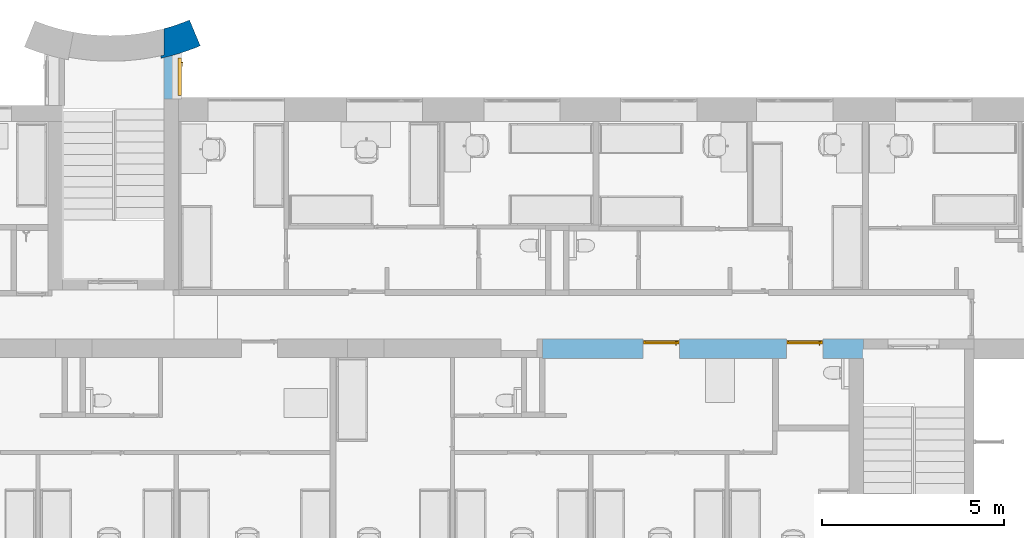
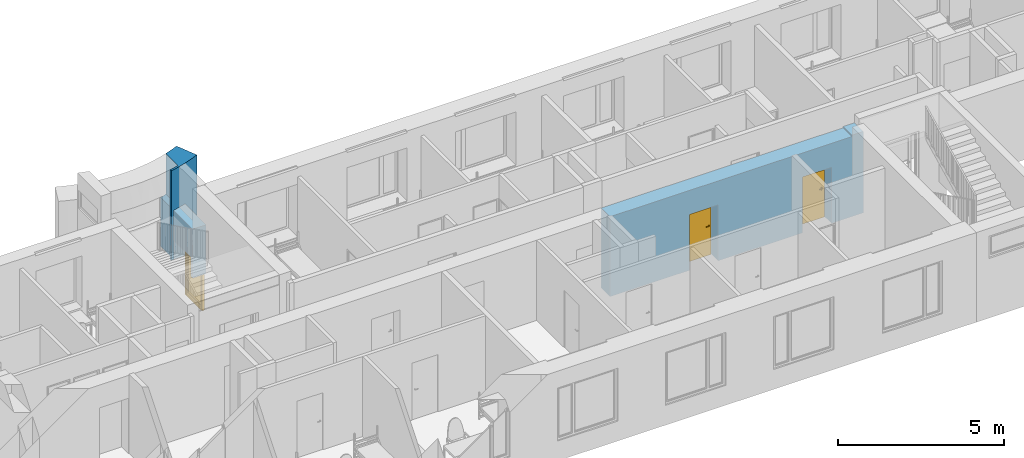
# One storey, part 19 of 46: 3 doors, 1 wall, 3 openings, plus 2 elements that do not belong to this part.
"""IFC2X3 building model written with IfcOpenShell, lengths in millimetres."""

from ifc_helpers import new_model, entity, si_unit, converted_unit, derived_unit, direction, frame, frame_2d, origin, place, context, subcontext, project, spatial, polyline, rectangle, outline, extrude, clip, bounded_halfspace, faceted_brep, source, transform, mapped, material, material_list, layer, layer_set, layer_usage, type_object, type_shapes, element, fill, save


model = new_model("IFC2X3")

# Units and contexts
model_context = context("Model", 3, precision=0.01, world=origin(), true_north=direction((6.12303176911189e-17, 1.0)))
body_context = subcontext(model_context, "Body", "Model", "MODEL_VIEW")
ifc_project = project(units=[si_unit("LENGTHUNIT", "METRE", prefix="MILLI"), si_unit("AREAUNIT", "SQUARE_METRE"), si_unit("VOLUMEUNIT", "CUBIC_METRE"), converted_unit("PLANEANGLEUNIT", "DEGREE", entity("IfcRatioMeasure", 0.0174532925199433), si_unit("PLANEANGLEUNIT", "RADIAN"), dimensions=[0, 0, 0, 0, 0, 0, 0]), si_unit("MASSUNIT", "GRAM", prefix="KILO"), derived_unit("MASSDENSITYUNIT", [(si_unit("MASSUNIT", "GRAM", prefix="KILO"), 1), (si_unit("LENGTHUNIT", "METRE"), -3)]), si_unit("TIMEUNIT", "SECOND"), si_unit("FREQUENCYUNIT", "HERTZ"), si_unit("THERMODYNAMICTEMPERATUREUNIT", "DEGREE_CELSIUS"), derived_unit("THERMALTRANSMITTANCEUNIT", [(si_unit("MASSUNIT", "GRAM", prefix="KILO"), 1), (si_unit("THERMODYNAMICTEMPERATUREUNIT", "KELVIN"), -1), (si_unit("TIMEUNIT", "SECOND"), -3)]), derived_unit("VOLUMETRICFLOWRATEUNIT", [(si_unit("LENGTHUNIT", "METRE"), 3), (si_unit("TIMEUNIT", "SECOND"), -1)]), si_unit("ELECTRICCURRENTUNIT", "AMPERE"), si_unit("ELECTRICVOLTAGEUNIT", "VOLT"), si_unit("POWERUNIT", "WATT"), si_unit("FORCEUNIT", "NEWTON", prefix="KILO"), si_unit("ILLUMINANCEUNIT", "LUX"), si_unit("LUMINOUSFLUXUNIT", "LUMEN"), si_unit("LUMINOUSINTENSITYUNIT", "CANDELA"), derived_unit("USERDEFINED", [(si_unit("MASSUNIT", "GRAM", prefix="KILO"), -1), (si_unit("LENGTHUNIT", "METRE"), -2), (si_unit("TIMEUNIT", "SECOND"), 3), (si_unit("LUMINOUSFLUXUNIT", "LUMEN"), 1)]), derived_unit("LINEARVELOCITYUNIT", [(si_unit("LENGTHUNIT", "METRE"), 1), (si_unit("TIMEUNIT", "SECOND"), -1)]), si_unit("PRESSUREUNIT", "PASCAL"), derived_unit("USERDEFINED", [(si_unit("LENGTHUNIT", "METRE"), -2), (si_unit("MASSUNIT", "GRAM", prefix="KILO"), 1), (si_unit("TIMEUNIT", "SECOND"), -2)]), derived_unit("LINEARFORCEUNIT", [(si_unit("MASSUNIT", "GRAM", prefix="KILO"), 1), (si_unit("LENGTHUNIT", "METRE"), 1), (si_unit("TIMEUNIT", "SECOND"), -2), (si_unit("LENGTHUNIT", "METRE"), -1)]), derived_unit("PLANARFORCEUNIT", [(si_unit("MASSUNIT", "GRAM", prefix="KILO"), 1), (si_unit("LENGTHUNIT", "METRE"), 1), (si_unit("TIMEUNIT", "SECOND"), -2), (si_unit("LENGTHUNIT", "METRE"), -2)])], contexts=[model_context])

# Site, building, storey
site_placement = place(None, origin())
site = spatial("IfcSite", under=ifc_project, at=site_placement, Name="Default", CompositionType="ELEMENT")
building_placement = place(site_placement, origin())
building = spatial("IfcBuilding", under=site, at=building_placement, Name="SMA ARH", CompositionType="ELEMENT")
storey_placement = place(building_placement, origin())
storey = spatial("IfcBuildingStorey", under=building, at=storey_placement, Name="1 Korrus", CompositionType="ELEMENT", Elevation=0.0)

# Wall
ifc_material_1 = material(Name="_ol.olev sein")
ifc_layer_1 = layer(ifc_material_1, 770.0)
ifc_layer_set_1 = layer_set([ifc_layer_1], Name="Basic Wall:Generic - 770mm")
wall_type_1 = type_object("IfcWallType", Name="Basic Wall:Generic - 770mm", PredefinedType="STANDARD", material=ifc_layer_set_1)
wall_1_placement = place(storey_placement, frame((12444.4838887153, 14938.9611288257, 0.0)))
element("IfcWall", 1, at=wall_1_placement, inside=storey, type_object=wall_type_1, Name="Basic Wall:Generic - 770mm", ObjectType="Basic Wall:Generic - 770mm", context=body_context, shape_type="Brep", body=[
    faceted_brep([(-624.490741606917, -622.330484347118, 3300.0), (-499.100498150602, -586.482311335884, 3300.0), (-374.486242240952, -548.066408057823, 3300.0), (-110.625372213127, -457.296493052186, 3300.0), (148.984988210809, -355.004891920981, 3300.0), (-148.984988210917, 355.004891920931, 3300.0), (-305.707043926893, 292.010676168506, 3300.0), (-464.242054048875, 233.80605630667, 3300.0), (-624.483888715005, 180.429484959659, 3300.0), (-624.48388871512, -549.703109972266, 3300.0), (-783.678292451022, -591.732071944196, 3300.0), (-943.921363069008, -629.566581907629, 3300.0), (-928.732006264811, -697.898737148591, 3300.0), (-776.124484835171, -661.990420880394, 3300.0), (-148.984988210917, 355.004891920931, 0.0), (148.984988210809, -355.004891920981, 0.0), (-23.6055936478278, -424.475655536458, 0.0), (-198.138993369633, -488.845008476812, 0.0), (-374.490835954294, -548.067771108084, 0.0), (-607.819292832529, -617.724791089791, 0.0), (-843.629615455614, -678.365652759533, 0.0), (-844.483888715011, -678.365652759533, 0.0), (-844.483888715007, -678.567869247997, 0.0), (-886.572291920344, -688.376255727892, 0.0), (-928.732006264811, -697.898737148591, 0.0), (-943.921363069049, -629.566581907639, 0.0), (-894.155924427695, -618.291670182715, 0.0), (-844.483888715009, -606.612141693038, 0.0), (-844.483888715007, 115.78500775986, 0.0), (-609.212608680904, 185.284571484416, 0.0), (-377.229668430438, 265.0761142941, 0.0), (-844.483888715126, -678.567869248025, 700.0), (-928.73200626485, -697.8987371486, 1650.0), (-928.73200626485, -697.8987371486, 825.0), (-843.629615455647, -678.365652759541, 700.0), (-844.056748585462, -678.466775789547, 700.0), (-624.483888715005, 180.429484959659, 1800.0), (-734.151208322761, 146.975058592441, 1800.0), (-844.483888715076, 115.78500775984, 1800.0), (-943.921363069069, -629.566581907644, 1650.0), (-844.483888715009, -678.365652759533, 700.0), (-844.483888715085, -606.612141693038, 1800.0), (-734.226056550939, -579.154358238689, 1800.0), (-624.483888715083, -549.703109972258, 1800.0)], [[[0, 1, 2, 3, 4, 5, 6, 7, 8, 9, 10, 11, 12, 13]], [[14, 15, 16, 17, 18, 19, 20, 21, 22, 23, 24, 25, 26, 27, 28, 29, 30]], [[31, 24, 23]], [[31, 23, 22]], [[32, 13, 12]], [[31, 32, 33, 24]], [[32, 34, 1]], [[13, 32, 0]], [[32, 35, 34]], [[32, 31, 35]], [[34, 20, 19]], [[1, 19, 18]], [[3, 17, 16]], [[18, 17, 2]], [[4, 16, 15]], [[32, 1, 0]], [[3, 2, 17]], [[4, 3, 16]], [[1, 18, 2]], [[1, 34, 19]], [[5, 4, 15, 14]], [[14, 6, 5]], [[14, 30, 6]], [[6, 30, 36]], [[7, 6, 36]], [[29, 37, 36]], [[30, 29, 36]], [[29, 28, 37]], [[38, 37, 28]], [[8, 7, 36]], [[11, 39, 25, 24, 33, 32, 12]], [[31, 22, 21, 40]], [[35, 31, 40, 34]], [[20, 34, 40, 21]], [[39, 41, 26]], [[10, 41, 11]], [[26, 25, 39]], [[41, 27, 26]], [[9, 42, 10]], [[42, 41, 10]], [[43, 42, 9]], [[39, 11, 41]], [[41, 42, 43, 36, 37, 38]], [[38, 28, 27, 41]], [[8, 36, 43, 9]]]),
])

# Wall, opening, door
ifc_layer_2 = layer(ifc_material_1, 470.0)
ifc_layer_set_2 = layer_set([ifc_layer_2], Name="Basic Wall:Generic - 470mm")
ifc_layer_usage_1 = layer_usage(ifc_layer_set_2, "AXIS2", "POSITIVE", -235.0)
wall_type_2 = type_object("IfcWallType", Name="Basic Wall:Generic - 470mm", PredefinedType="STANDARD", material=ifc_layer_set_2)
wall_2_placement = place(storey_placement, frame((11835.0, 13118.2580960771, 0.0), z_axis=(0.0, 0.0, 1.0), x_axis=(0.0, 1.0, 0.0)))
wall_2 = element("IfcWallStandardCase", 2, at=wall_2_placement, inside=storey, type_object=wall_type_2, material=ifc_layer_usage_1, Name="Basic Wall:Generic - 470mm", ObjectType="Basic Wall:Generic - 470mm", context=body_context, shape_type="SweptSolid", body=[
    extrude(outline(polyline([(0.0, -235.0), (1272.63736913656, -235.0), (1234.21714978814, -110.371366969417), (1198.37544674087, 14.9960091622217), (1169.27259583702, 124.737070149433), (1142.13516350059, 235.0), (0.0, 235.0), (0.0, 15.0), (0.0, -235.0)])), origin(), (0.0, 0.0, 1.0), 1800.0),
])
opening_1_placement = place(wall_2_placement, frame((1142.33737998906, 235.0, -1400.0)))
opening_1 = element("IfcOpeningElement", 3, at=opening_1_placement, cuts=wall_2, Name="SMA_D01, 1-poolne:VU-02 - 1000x2100:1", ObjectType="Opening", context=body_context, shape_type="SweptSolid", body=[
    extrude(rectangle(XDim=2099.99999999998, YDim=1050.0, at=frame_2d((1049.99999999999, 525.0), x_axis=(1.0, 0.0))), frame((0.0, 0.0, 0.0), z_axis=(0.0, -1.0, 0.0), x_axis=(0.0, 0.0, 1.0)), (0.0, 0.0, 1.0), 470.0),
])
ifc_material_2 = material(Name="EST. Metall. Alumiinium. Värvitud. RAL7023 (Concrete grey)")
ifc_material_3 = material(Name="EST. Klaas. 3x. Default")
ifc_material_list_1 = material_list([ifc_material_2, ifc_material_3])
ifc_material_4 = material(Name="<Unnamed>")
ifc_material_list_2 = material_list([ifc_material_3, ifc_material_2, ifc_material_2, ifc_material_4, ifc_material_4, ifc_material_2, ifc_material_4])
door_style_1 = type_object("IfcDoorStyle", Name="SMA_D01, 1-poolne:VU-02 - 1000x2100", ConstructionType="NOTDEFINED", OperationType="SINGLE_SWING_RIGHT", ParameterTakesPrecedence=False, Sizeable=False, material=ifc_material_list_2)
shared_shape_1 = source(origin(), body_context, "Body", "Brep", [
    faceted_brep([(150.5, 380.0, 1112.5), (150.499999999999, 418.0, 1112.5), (125.499999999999, 418.0, 1112.5), (125.499999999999, 375.0, 1112.5), (245.499999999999, 375.0, 1112.5), (245.499999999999, 380.0, 1112.5), (150.5, 380.0, 1087.5), (245.499999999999, 380.0, 1087.5), (245.499999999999, 375.0, 1087.5), (125.499999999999, 375.0, 1087.5), (125.499999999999, 418.0, 1087.5), (150.499999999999, 418.0, 1087.5)], [[[0, 1, 2, 3, 4, 5]], [[6, 7, 8, 9, 10, 11]], [[1, 0, 6, 11]], [[2, 1, 11, 10]], [[3, 2, 10, 9]], [[4, 3, 9, 8]], [[5, 4, 8, 7]], [[0, 5, 7, 6]]]),
    faceted_brep([(163.0, 418.0, 1137.5), (163.0, 420.0, 1137.5), (113.0, 420.0, 1137.5), (113.0, 418.0, 1137.5), (163.0, 418.0, 1017.5), (113.0, 418.0, 1017.5), (113.0, 420.0, 1017.5), (163.0, 420.0, 1017.5)], [[[0, 1, 2, 3]], [[4, 5, 6, 7]], [[1, 0, 4, 7]], [[2, 1, 7, 6]], [[3, 2, 6, 5]], [[0, 3, 5, 4]]]),
    faceted_brep([(150.499999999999, 510.0, 1112.5), (245.499999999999, 510.0, 1112.5), (245.499999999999, 515.0, 1112.5), (125.499999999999, 515.0, 1112.5), (125.499999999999, 472.0, 1112.5), (150.499999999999, 472.0, 1112.5), (150.499999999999, 510.0, 1087.5), (150.499999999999, 472.0, 1087.5), (125.499999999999, 472.0, 1087.5), (125.499999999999, 515.0, 1087.5), (245.499999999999, 515.0, 1087.5), (245.499999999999, 510.0, 1087.5)], [[[0, 1, 2, 3, 4, 5]], [[6, 7, 8, 9, 10, 11]], [[5, 7, 6, 0]], [[4, 8, 7, 5]], [[3, 9, 8, 4]], [[2, 10, 9, 3]], [[1, 11, 10, 2]], [[0, 6, 11, 1]]]),
    faceted_brep([(163.0, 472.0, 1137.5), (113.0, 472.0, 1137.5), (113.0, 470.0, 1137.5), (163.0, 470.0, 1137.5), (163.0, 472.0, 1017.5), (163.0, 470.0, 1017.5), (113.0, 470.0, 1017.5), (113.0, 472.0, 1017.5)], [[[0, 1, 2, 3]], [[4, 5, 6, 7]], [[3, 5, 4, 0]], [[2, 6, 5, 3]], [[1, 7, 6, 2]], [[0, 4, 7, 1]]]),
    faceted_brep([(980.0, 380.0, 30.0), (980.0, 380.0, 0.0), (980.0, 420.0, 0.0), (980.0, 420.0, 30.0), (70.0, 380.0, 30.0), (70.0, 420.0, 30.0), (70.0, 420.0, 0.0), (70.0, 380.0, 0.0), (75.4999999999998, 420.0, 0.0), (75.4999999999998, 470.0, 0.0), (974.5, 470.0, 0.0), (974.5, 420.0, 0.0), (974.5, 420.0, 20.0), (75.4999999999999, 420.0, 20.0), (974.5, 470.0, 20.0), (75.4999999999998, 470.0, 20.0)], [[[0, 1, 2, 3]], [[4, 5, 6, 7]], [[1, 0, 4, 7]], [[2, 1, 7, 6, 8, 9, 10, 11]], [[3, 2, 11, 12, 13, 8, 6, 5]], [[0, 3, 5, 4]], [[14, 12, 11, 10]], [[15, 9, 8, 13]], [[12, 14, 15, 13]], [[14, 10, 9, 15]]]),
    faceted_brep([(1040.0, 380.0, 0.0), (980.0, 380.0, 0.0), (980.0, 420.0, 0.0), (974.5, 420.0, 0.0), (974.5, 470.0, 0.0), (1040.0, 470.0, 0.0), (1040.0, 380.0, 2090.0), (10.0, 380.0, 2090.0), (10.0, 380.0, 0.0), (70.0, 380.0, 0.0), (70.0, 380.0, 2030.0), (980.0, 380.0, 2030.0), (980.0, 420.0, 2030.0), (70.0, 420.0, 2030.0), (70.0, 420.0, 0.0), (75.5000000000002, 420.0, 0.0), (75.5000000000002, 420.0, 2024.49999999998), (974.5, 420.0, 2024.49999999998), (974.5, 470.0, 2024.49999999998), (75.5000000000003, 470.0, 2024.49999999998), (75.5000000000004, 470.0, 0.0), (10.0, 470.0, 0.0), (10.0, 470.0, 2090.0), (1040.0, 470.0, 2090.0)], [[[0, 1, 2, 3, 4, 5]], [[1, 0, 6, 7, 8, 9, 10, 11]], [[2, 1, 11, 12]], [[3, 2, 12, 13, 14, 15, 16, 17]], [[4, 3, 17, 18]], [[5, 4, 18, 19, 20, 21, 22, 23]], [[0, 5, 23, 6]], [[8, 7, 22, 21]], [[9, 8, 21, 20, 15, 14]], [[10, 9, 14, 13]], [[16, 15, 20, 19]], [[11, 10, 13, 12]], [[17, 16, 19, 18]], [[7, 6, 23, 22]]]),
    faceted_brep([(905.0, 435.0, 95.0), (905.0, 435.0, 1955.0), (145.0, 435.0, 1955.0), (145.0, 435.0, 95.0), (905.0, 455.0, 95.0), (145.0, 455.0, 95.0), (145.0, 455.0, 1955.0), (905.0, 455.0, 1955.0)], [[[0, 1, 2, 3]], [[4, 5, 6, 7]], [[1, 0, 4, 7]], [[2, 1, 7, 6]], [[3, 2, 6, 5]], [[0, 3, 5, 4]]]),
    faceted_brep([(974.499999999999, 420.0, 20.0), (974.499999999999, 420.0, 2024.49999999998), (75.4999999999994, 420.0, 2024.49999999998), (75.4999999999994, 420.0, 20.0), (145.0, 420.0, 95.0), (145.0, 420.0, 1955.0), (905.0, 420.0, 1955.0), (905.0, 420.0, 95.0), (974.499999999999, 470.0, 20.0), (75.4999999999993, 470.0, 20.0), (75.4999999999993, 470.0, 2024.49999999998), (974.499999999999, 470.0, 2024.49999999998), (145.0, 470.0, 1955.0), (145.0, 470.0, 95.0), (905.0, 470.0, 95.0), (905.0, 470.0, 1955.0)], [[[0, 1, 2, 3], [4, 5, 6, 7]], [[8, 9, 10, 11], [12, 13, 14, 15]], [[1, 0, 8, 11]], [[2, 1, 11, 10]], [[3, 2, 10, 9]], [[0, 3, 9, 8]], [[12, 5, 4, 13]], [[13, 4, 7, 14]], [[14, 7, 6, 15]], [[5, 12, 15, 6]]]),
])
type_shapes(door_style_1, [shared_shape_1])
door_1_placement = place(opening_1_placement, frame((0.0, 0.0, 0.0), z_axis=(0.0, 0.0, 1.0), x_axis=(-1.0, 0.0, 0.0)))
door_1 = element("IfcDoor", 4, at=door_1_placement, inside=storey, type_object=door_style_1, material=ifc_material_list_1, Name="SMA_D01, 1-poolne:VU-02 - 1000x2100", ObjectType="SMA_D01, 1-poolne:VU-02 - 1000x2100", OverallHeight=2099.99999999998, OverallWidth=1050.0, context=body_context, shape_type="MappedRepresentation", body=[
    mapped(shared_shape_1, transform((0.0, 0.0, 0.0), scale=1.0)),
])
fill(opening_1, door_1)

# Wall, openings, doors
ifc_layer_3 = layer(ifc_material_1, 535.0)
ifc_layer_set_3 = layer_set([ifc_layer_3], Name="Basic Wall:Generic - 535mm")
ifc_layer_usage_2 = layer_usage(ifc_layer_set_3, "AXIS2", "POSITIVE", -267.5)
wall_type_3 = type_object("IfcWallType", Name="Basic Wall:Generic - 535mm", PredefinedType="STANDARD", material=ifc_layer_set_3)
wall_3_placement = place(storey_placement, frame((22005.0, 6252.50000000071, 0.0)))
wall_3 = element("IfcWallStandardCase", 5, at=wall_3_placement, inside=storey, type_object=wall_type_3, material=ifc_layer_usage_2, Name="Basic Wall:Generic - 535mm", ObjectType="Basic Wall:Generic - 535mm", context=body_context, shape_type="Clipping", body=[
    clip(clip(extrude(rectangle(XDim=8824.99999999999, YDim=535.0, at=frame_2d((4412.49999999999, 1.4210854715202e-13), x_axis=(-1.0, 0.0))), origin(), (0.0, 0.0, 1.0), 2989.99999999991), bounded_halfspace(frame((8425.0, -267.5, 2940.0), z_axis=(0.0, 0.0, -1.0), x_axis=(0.0, 1.0, 0.0)), True, frame((8425.0, -267.5, 2940.0), z_axis=(0.0, 0.0, -1.0), x_axis=(0.0, 1.0, 0.0)), polyline([(0.0, 0.0), (0.0, -8425.0), (535.0, -8425.0), (535.0, 0.0), (0.0, 0.0)]))), bounded_halfspace(frame((8425.0, 267.499999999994, 2940.0), z_axis=(1.0, 0.0, 0.0), x_axis=(0.0, 0.0, 1.0)), True, frame((8425.0, 267.499999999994, 2940.0), z_axis=(1.0, 0.0, 0.0), x_axis=(0.0, 0.0, 1.0)), polyline([(0.0, 0.0), (50.0, 0.0), (50.0, 535.0), (0.0, 535.0), (0.0, 0.0)]))),
])
opening_2_placement = place(wall_3_placement, frame((3765.0, 267.499999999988, 0.0)))
opening_2 = element("IfcOpeningElement", 6, at=opening_2_placement, cuts=wall_3, Name="SMA_D01, 1-poolne:SU-P-04 - 1000x2060 EI-30:1", ObjectType="Opening", context=body_context, shape_type="SweptSolid", body=[
    extrude(rectangle(XDim=2059.99999999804, YDim=1000.0, at=frame_2d((1029.99999999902, 500.0), x_axis=(1.0, 0.0))), frame((0.0, 0.0, 0.0), z_axis=(0.0, -1.0, 0.0), x_axis=(0.0, 0.0, 1.0)), (0.0, 0.0, 1.0), 535.0),
])
opening_3_placement = place(wall_3_placement, frame((7710.0, 267.499999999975, 0.0)))
opening_3 = element("IfcOpeningElement", 7, at=opening_3_placement, cuts=wall_3, Name="SMA_D01, 1-poolne:SU-P-07 - 1000x2100:1", ObjectType="Opening", context=body_context, shape_type="SweptSolid", body=[
    extrude(rectangle(XDim=2059.99999999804, YDim=1000.0, at=frame_2d((1029.99999999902, 500.0), x_axis=(1.0, 0.0))), frame((0.0, 0.0, 0.0), z_axis=(0.0, -1.0, 0.0), x_axis=(0.0, 0.0, 1.0)), (0.0, 0.0, 1.0), 535.0),
])
ifc_material_list_3 = material_list([ifc_material_2, ifc_material_4, ifc_material_4, ifc_material_3, ifc_material_2, ifc_material_4, ifc_material_2])
door_style_2 = type_object("IfcDoorStyle", Name="SMA_D01, 1-poolne:SU-P-04 - 1000x2060 EI-30", ConstructionType="NOTDEFINED", OperationType="SINGLE_SWING_RIGHT", ParameterTakesPrecedence=False, Sizeable=False, material=ifc_material_list_3)
shared_shape_2 = source(origin(), body_context, "Body", "Brep", [
    faceted_brep([(110.0, 45.0, 1112.5), (110.0, 83.0, 1112.5), (85.0, 83.0, 1112.5), (85.0, 40.0, 1112.5), (205.0, 40.0, 1112.5), (205.0, 45.0, 1112.5), (110.0, 45.0, 1087.5), (205.0, 45.0, 1087.5), (205.0, 40.0, 1087.5), (85.0, 40.0, 1087.5), (85.0, 83.0, 1087.5), (110.0, 83.0, 1087.5)], [[[0, 1, 2, 3, 4, 5]], [[6, 7, 8, 9, 10, 11]], [[1, 0, 6, 11]], [[2, 1, 11, 10]], [[3, 2, 10, 9]], [[4, 3, 9, 8]], [[5, 4, 8, 7]], [[0, 5, 7, 6]]]),
    faceted_brep([(122.5, 83.0, 1137.5), (122.5, 85.0, 1137.5), (72.4999999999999, 85.0, 1137.5), (72.4999999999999, 83.0, 1137.5), (122.5, 83.0, 1017.5), (72.4999999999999, 83.0, 1017.5), (72.4999999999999, 85.0, 1017.5), (122.5, 85.0, 1017.5)], [[[0, 1, 2, 3]], [[4, 5, 6, 7]], [[1, 0, 4, 7]], [[2, 1, 7, 6]], [[3, 2, 6, 5]], [[0, 3, 5, 4]]]),
    faceted_brep([(110.0, 175.0, 1112.5), (205.0, 175.0, 1112.5), (205.0, 180.0, 1112.5), (85.0, 180.0, 1112.5), (85.0, 137.0, 1112.5), (110.0, 137.0, 1112.5), (110.0, 175.0, 1087.5), (110.0, 137.0, 1087.5), (85.0, 137.0, 1087.5), (85.0, 180.0, 1087.5), (205.0, 180.0, 1087.5), (205.0, 175.0, 1087.5)], [[[0, 1, 2, 3, 4, 5]], [[6, 7, 8, 9, 10, 11]], [[5, 7, 6, 0]], [[4, 8, 7, 5]], [[3, 9, 8, 4]], [[2, 10, 9, 3]], [[1, 11, 10, 2]], [[0, 6, 11, 1]]]),
    faceted_brep([(122.5, 137.0, 1137.5), (72.4999999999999, 137.0, 1137.5), (72.4999999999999, 135.0, 1137.5), (122.5, 135.0, 1137.5), (122.5, 137.0, 1017.5), (122.5, 135.0, 1017.5), (72.4999999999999, 135.0, 1017.5), (72.4999999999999, 137.0, 1017.5)], [[[0, 1, 2, 3]], [[4, 5, 6, 7]], [[3, 5, 4, 0]], [[2, 6, 5, 3]], [[1, 7, 6, 2]], [[0, 4, 7, 1]]]),
    faceted_brep([(950.0, 45.0, 30.0), (950.0, 45.0, 0.0), (950.0, 85.0, 0.0), (950.0, 85.0, 20.0), (950.0, 85.0, 30.0), (50.0, 45.0, 30.0), (50.0, 85.0, 30.0), (50.0, 85.0, 20.0), (50.0, 85.0, 0.0), (50.0, 45.0, 0.0), (35.0, 85.0, 0.0), (35.0, 135.0, 0.0), (965.0, 135.0, 0.0), (965.0, 85.0, 0.0), (965.0, 135.0, 20.0), (965.0, 85.0, 20.0), (35.0, 135.0, 20.0), (35.0, 85.0, 20.0)], [[[0, 1, 2, 3, 4]], [[5, 6, 7, 8, 9]], [[1, 0, 5, 9]], [[2, 1, 9, 8, 10, 11, 12, 13]], [[6, 4, 3, 7]], [[0, 4, 6, 5]], [[14, 15, 13, 12]], [[16, 11, 10, 17]], [[15, 14, 16, 17, 7, 3]], [[13, 15, 3, 2]], [[14, 12, 11, 16]], [[17, 10, 8, 7]]]),
    faceted_brep([(990.0, 45.0, 0.0), (950.0, 45.0, 0.0), (950.0, 85.0, 0.0), (965.0, 85.0, 0.0), (965.0, 135.0, 0.0), (990.0, 135.0, 0.0), (990.0, 45.0, 2050.0), (10.0, 45.0, 2050.0), (10.0, 45.0, 0.0), (50.0, 45.0, 0.0), (50.0, 45.0, 2010.0), (950.0, 45.0, 2010.0), (950.0, 85.0, 2010.0), (50.0, 85.0, 2010.0), (50.0, 85.0, 0.0), (35.0, 85.0, 0.0), (35.0, 85.0, 2025.0), (965.0, 85.0, 2025.0), (965.0, 135.0, 2025.0), (35.0, 135.0, 2025.0), (35.0, 135.0, 0.0), (10.0, 135.0, 0.0), (10.0, 135.0, 2050.0), (990.0, 135.0, 2050.0)], [[[0, 1, 2, 3, 4, 5]], [[1, 0, 6, 7, 8, 9, 10, 11]], [[2, 1, 11, 12]], [[3, 2, 12, 13, 14, 15, 16, 17]], [[4, 3, 17, 18]], [[5, 4, 18, 19, 20, 21, 22, 23]], [[0, 5, 23, 6]], [[8, 7, 22, 21]], [[9, 8, 21, 20, 15, 14]], [[10, 9, 14, 13]], [[16, 15, 20, 19]], [[11, 10, 13, 12]], [[17, 16, 19, 18]], [[7, 6, 23, 22]]]),
    faceted_brep([(35.0, 85.0, 2025.0), (35.0, 85.0, 20.0), (965.0, 85.0, 20.0), (965.0, 85.0, 2025.0), (35.0, 135.0, 2025.0), (965.0, 135.0, 2025.0), (965.0, 135.0, 20.0), (35.0, 135.0, 20.0)], [[[0, 1, 2, 3]], [[4, 5, 6, 7]], [[1, 0, 4, 7]], [[2, 1, 7, 6]], [[3, 2, 6, 5]], [[0, 3, 5, 4]]]),
])
type_shapes(door_style_2, [shared_shape_2])
door_2_placement = place(opening_2_placement, frame((0.0, 0.0, 0.0), z_axis=(0.0, 0.0, 1.0), x_axis=(-1.0, 0.0, 0.0)))
door_2 = element("IfcDoor", 8, at=door_2_placement, inside=storey, type_object=door_style_2, material=ifc_material_2, Name="SMA_D01, 1-poolne:SU-P-04 - 1000x2060 EI-30", ObjectType="SMA_D01, 1-poolne:SU-P-04 - 1000x2060 EI-30", OverallHeight=2059.99999999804, OverallWidth=999.999999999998, context=body_context, shape_type="MappedRepresentation", body=[
    mapped(shared_shape_2, transform((0.0, 0.0, 0.0), scale=1.0)),
])
fill(opening_2, door_2)
ifc_material_list_4 = material_list([ifc_material_2, ifc_material_2, ifc_material_2, ifc_material_4, ifc_material_4, ifc_material_3, ifc_material_4])
door_style_3 = type_object("IfcDoorStyle", Name="SMA_D01, 1-poolne:SU-P-07 - 1000x2100", ConstructionType="NOTDEFINED", OperationType="SINGLE_SWING_RIGHT", ParameterTakesPrecedence=False, Sizeable=False, material=ifc_material_list_4)
shared_shape_3 = source(origin(), body_context, "Body", "Brep", [
    faceted_brep([(110.0, 45.0, 1112.5), (110.0, 83.0, 1112.5), (85.0, 83.0, 1112.5), (85.0, 40.0, 1112.5), (205.0, 40.0, 1112.5), (205.0, 45.0, 1112.5), (110.0, 45.0, 1087.5), (205.0, 45.0, 1087.5), (205.0, 40.0, 1087.5), (85.0, 40.0, 1087.5), (85.0, 83.0, 1087.5), (110.0, 83.0, 1087.5)], [[[0, 1, 2, 3, 4, 5]], [[6, 7, 8, 9, 10, 11]], [[1, 0, 6, 11]], [[2, 1, 11, 10]], [[3, 2, 10, 9]], [[4, 3, 9, 8]], [[5, 4, 8, 7]], [[0, 5, 7, 6]]]),
    faceted_brep([(122.5, 83.0, 1137.5), (122.5, 85.0, 1137.5), (72.4999999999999, 85.0, 1137.5), (72.4999999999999, 83.0, 1137.5), (122.5, 83.0, 1017.5), (72.4999999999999, 83.0, 1017.5), (72.4999999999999, 85.0, 1017.5), (122.5, 85.0, 1017.5)], [[[0, 1, 2, 3]], [[4, 5, 6, 7]], [[1, 0, 4, 7]], [[2, 1, 7, 6]], [[3, 2, 6, 5]], [[0, 3, 5, 4]]]),
    faceted_brep([(110.0, 175.0, 1112.5), (205.0, 175.0, 1112.5), (205.0, 180.0, 1112.5), (85.0, 180.0, 1112.5), (85.0, 137.0, 1112.5), (110.0, 137.0, 1112.5), (110.0, 175.0, 1087.5), (110.0, 137.0, 1087.5), (85.0, 137.0, 1087.5), (85.0, 180.0, 1087.5), (205.0, 180.0, 1087.5), (205.0, 175.0, 1087.5)], [[[0, 1, 2, 3, 4, 5]], [[6, 7, 8, 9, 10, 11]], [[5, 7, 6, 0]], [[4, 8, 7, 5]], [[3, 9, 8, 4]], [[2, 10, 9, 3]], [[1, 11, 10, 2]], [[0, 6, 11, 1]]]),
    faceted_brep([(122.5, 137.0, 1137.5), (72.4999999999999, 137.0, 1137.5), (72.4999999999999, 135.0, 1137.5), (122.5, 135.0, 1137.5), (122.5, 137.0, 1017.5), (122.5, 135.0, 1017.5), (72.4999999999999, 135.0, 1017.5), (72.4999999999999, 137.0, 1017.5)], [[[0, 1, 2, 3]], [[4, 5, 6, 7]], [[3, 5, 4, 0]], [[2, 6, 5, 3]], [[1, 7, 6, 2]], [[0, 4, 7, 1]]]),
    faceted_brep([(950.0, 45.0, 30.0), (950.0, 45.0, 0.0), (950.0, 85.0, 0.0), (950.0, 85.0, 20.0), (950.0, 85.0, 30.0), (50.0, 45.0, 30.0), (50.0, 85.0, 30.0), (50.0, 85.0, 20.0), (50.0, 85.0, 0.0), (50.0, 45.0, 0.0), (35.0, 85.0, 0.0), (35.0, 135.0, 0.0), (965.0, 135.0, 0.0), (965.0, 85.0, 0.0), (965.0, 135.0, 20.0), (965.0, 85.0, 20.0), (35.0, 135.0, 20.0), (35.0, 85.0, 20.0)], [[[0, 1, 2, 3, 4]], [[5, 6, 7, 8, 9]], [[1, 0, 5, 9]], [[2, 1, 9, 8, 10, 11, 12, 13]], [[6, 4, 3, 7]], [[0, 4, 6, 5]], [[14, 15, 13, 12]], [[16, 11, 10, 17]], [[15, 14, 16, 17, 7, 3]], [[13, 15, 3, 2]], [[14, 12, 11, 16]], [[17, 10, 8, 7]]]),
    faceted_brep([(990.0, 45.0, 0.0), (950.0, 45.0, 0.0), (950.0, 85.0, 0.0), (965.0, 85.0, 0.0), (965.0, 135.0, 0.0), (990.0, 135.0, 0.0), (990.0, 45.0, 2050.0), (10.0, 45.0, 2050.0), (10.0, 45.0, 0.0), (50.0, 45.0, 0.0), (50.0, 45.0, 2010.0), (950.0, 45.0, 2010.0), (950.0, 85.0, 2010.0), (50.0, 85.0, 2010.0), (50.0, 85.0, 0.0), (35.0, 85.0, 0.0), (35.0, 85.0, 2025.0), (965.0, 85.0, 2025.0), (965.0, 135.0, 2025.0), (35.0, 135.0, 2025.0), (35.0, 135.0, 0.0), (10.0, 135.0, 0.0), (10.0, 135.0, 2050.0), (990.0, 135.0, 2050.0)], [[[0, 1, 2, 3, 4, 5]], [[1, 0, 6, 7, 8, 9, 10, 11]], [[2, 1, 11, 12]], [[3, 2, 12, 13, 14, 15, 16, 17]], [[4, 3, 17, 18]], [[5, 4, 18, 19, 20, 21, 22, 23]], [[0, 5, 23, 6]], [[8, 7, 22, 21]], [[9, 8, 21, 20, 15, 14]], [[10, 9, 14, 13]], [[16, 15, 20, 19]], [[11, 10, 13, 12]], [[17, 16, 19, 18]], [[7, 6, 23, 22]]]),
    faceted_brep([(35.0, 85.0, 2025.0), (35.0, 85.0, 20.0), (965.0, 85.0, 20.0), (965.0, 85.0, 2025.0), (35.0, 135.0, 2025.0), (965.0, 135.0, 2025.0), (965.0, 135.0, 20.0), (35.0, 135.0, 20.0)], [[[0, 1, 2, 3]], [[4, 5, 6, 7]], [[1, 0, 4, 7]], [[2, 1, 7, 6]], [[3, 2, 6, 5]], [[0, 3, 5, 4]]]),
])
type_shapes(door_style_3, [shared_shape_3])
door_3_placement = place(opening_3_placement, frame((0.0, 0.0, 0.0), z_axis=(0.0, 0.0, 1.0), x_axis=(-1.0, 0.0, 0.0)))
door_3 = element("IfcDoor", 9, at=door_3_placement, inside=storey, type_object=door_style_3, material=ifc_material_2, Name="SMA_D01, 1-poolne:SU-P-07 - 1000x2100", ObjectType="SMA_D01, 1-poolne:SU-P-07 - 1000x2100", OverallHeight=2059.99999999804, OverallWidth=999.999999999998, context=body_context, shape_type="MappedRepresentation", body=[
    mapped(shared_shape_3, transform((0.0, 0.0, 0.0), scale=1.0)),
])
fill(opening_3, door_3)

save(model, "model.ifc")
